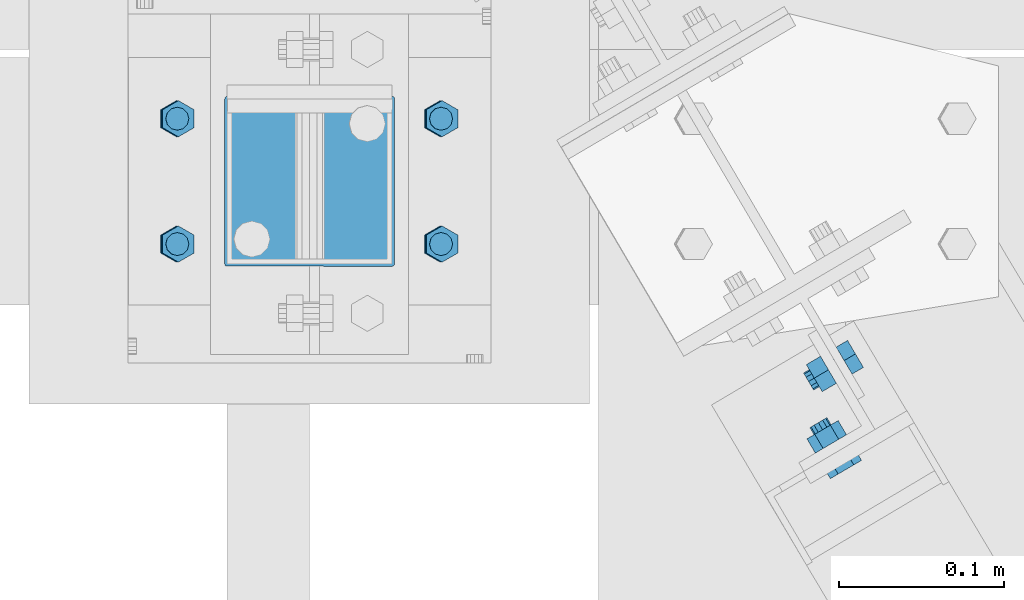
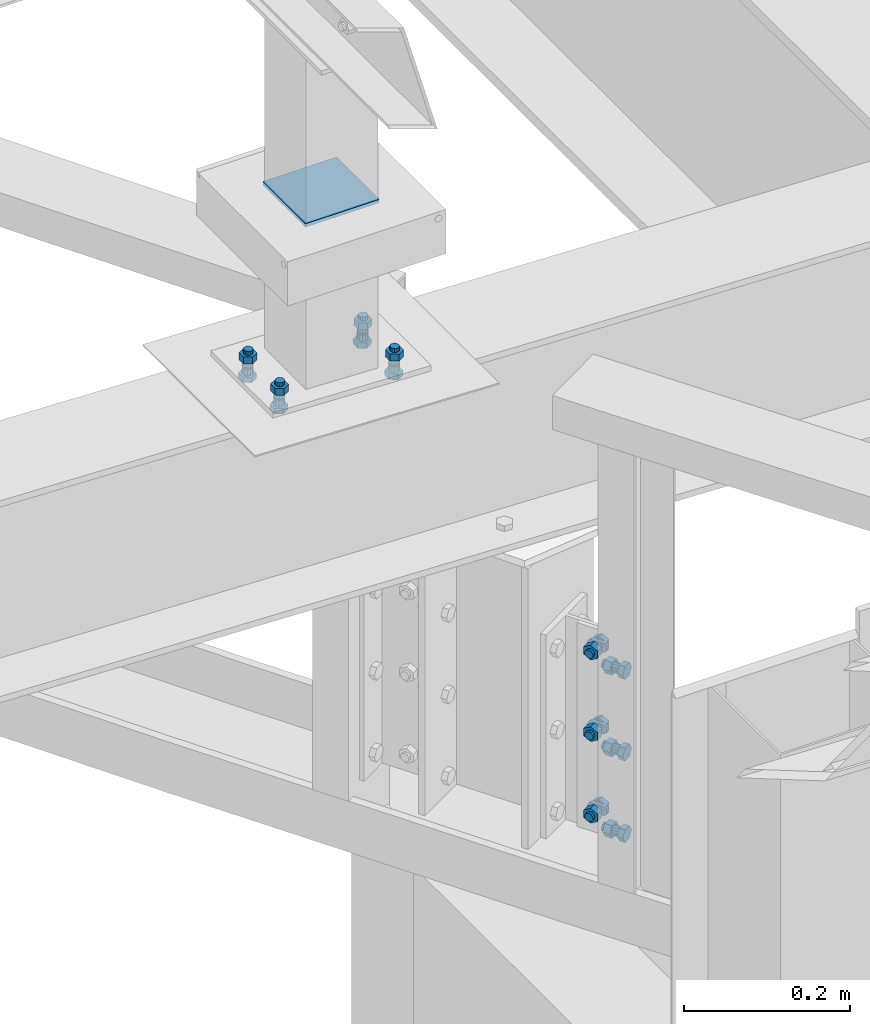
# One storey, part 13 of 3134: 5 mechanical fasteners, 3 elements without a shape of their own.
"""IFC2X3 building model written with IfcOpenShell, lengths in millimetres."""

from ifc_helpers import new_model, si_unit, frame, origin_with_axes, place, context, subcontext, project, spatial, faceted_brep, source, transform, mapped, material, type_object, element, aggregate, save


model = new_model("IFC2X3")

# Units and contexts
model_context = context("Model", 3, precision=1e-05, world=origin_with_axes())
body_context = subcontext(model_context, "Body", "Model", "MODEL_VIEW")
ifc_project = project(units=[si_unit("LENGTHUNIT", "METRE", prefix="MILLI"), si_unit("AREAUNIT", "SQUARE_METRE"), si_unit("VOLUMEUNIT", "CUBIC_METRE"), si_unit("MASSUNIT", "GRAM", prefix="KILO"), si_unit("TIMEUNIT", "SECOND"), si_unit("PLANEANGLEUNIT", "RADIAN"), si_unit("SOLIDANGLEUNIT", "STERADIAN"), si_unit("THERMODYNAMICTEMPERATUREUNIT", "DEGREE_CELSIUS"), si_unit("LUMINOUSINTENSITYUNIT", "LUMEN")], contexts=[model_context])

# Site, building, storey
site_placement = place(None, origin_with_axes())
site = spatial("IfcSite", under=ifc_project, at=site_placement, CompositionType="ELEMENT")
building_placement = place(site_placement, origin_with_axes())
building = spatial("IfcBuilding", under=site, at=building_placement, Name="Undefined", CompositionType="ELEMENT")
storey_placement = place(building_placement, origin_with_axes())
storey = spatial("IfcBuildingStorey", under=building, at=storey_placement, Name="Undefined", CompositionType="ELEMENT", Elevation=0.0)

# Assembly, mechanical fasteners
assembly_1_placement = place(storey_placement, origin_with_axes())
assembly_1 = element("IfcElementAssembly", 1, at=assembly_1_placement, inside=storey, AssemblyPlace="NOTDEFINED", PredefinedType="RIGID_FRAME")
ifc_material_1 = material(Name="8.8")
mechanical_fastener_type = type_object("IfcMechanicalFastenerType", Name="Bolt assembly")
shared_shape_1 = source(origin_with_axes(), body_context, "Body", "Brep", [
    faceted_brep([(10.9696551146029, -12.9998476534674, 0.0), (5.48482755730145, -12.9998476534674, 9.5), (-5.48482755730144, -12.9998476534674, 9.5), (-10.9696551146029, -12.9998476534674, 1.34339530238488e-15), (-5.48482755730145, -12.9998476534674, -9.5), (5.48482755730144, -12.9998476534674, -9.50000000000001), (5.48482755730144, -4.99984765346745, -9.50000000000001), (-5.48482755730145, -4.99984765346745, -9.5), (-10.9696551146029, -4.99984765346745, 1.34339530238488e-15), (-5.48482755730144, -4.99984765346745, 9.5), (5.48482755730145, -4.99984765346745, 9.5), (10.9696551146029, -4.99984765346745, 0.0), (6.0, -4.99984765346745, 0.0), (5.19615242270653, -4.99984765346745, 3.00000000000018), (2.99999999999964, -4.99984765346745, 5.19615242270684), (-6.21801588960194e-13, -4.99984765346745, 6.0), (-3.00000000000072, -4.99984765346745, 5.19615242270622), (-5.19615242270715, -4.99984765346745, 2.9999999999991), (-6.0, -4.99984765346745, -1.24360317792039e-12), (-5.19615242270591, -4.99984765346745, -3.00000000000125), (-2.99999999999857, -4.99984765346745, -5.19615242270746), (1.85874342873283e-12, -4.99984765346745, -6.0), (3.00000000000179, -4.99984765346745, -5.1961524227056), (5.19615242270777, -4.99984765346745, -2.99999999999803), (5.19615242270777, 20.0001523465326, -2.99999999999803), (3.00000000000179, 20.0001523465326, -5.1961524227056), (1.85874342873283e-12, 20.0001523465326, -6.0), (-2.99999999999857, 20.0001523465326, -5.19615242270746), (-5.19615242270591, 20.0001523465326, -3.00000000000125), (-6.0, 20.0001523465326, -1.24360317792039e-12), (-5.19615242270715, 20.0001523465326, 2.9999999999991), (-3.00000000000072, 20.0001523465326, 5.19615242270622), (-6.21801588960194e-13, 20.0001523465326, 6.0), (2.99999999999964, 20.0001523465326, 5.19615242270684), (5.19615242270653, 20.0001523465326, 3.00000000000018), (6.0, 20.0001523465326, 0.0), (10.9696551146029, 4.99208388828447, 0.0), (5.48482755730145, 4.99208388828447, 9.5), (-5.48482755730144, 4.99208388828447, 9.5), (-10.9696551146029, 4.99208388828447, 1.34339530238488e-15), (-5.48482755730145, 4.99208388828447, -9.5), (5.48482755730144, 4.99208388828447, -9.50000000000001), (5.48482755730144, 14.9920838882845, -9.50000000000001), (-5.48482755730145, 14.9920838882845, -9.5), (-10.9696551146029, 14.9920838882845, 1.34339530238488e-15), (-5.48482755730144, 14.9920838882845, 9.5), (5.48482755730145, 14.9920838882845, 9.5), (10.9696551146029, 14.9920838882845, 0.0)], [[[0, 1, 2, 3, 4, 5]], [[6, 7, 8, 9, 10, 11]], [[0, 11, 10, 1]], [[1, 10, 9, 2]], [[2, 9, 8, 3]], [[3, 8, 7, 4]], [[4, 7, 6, 5]], [[5, 6, 11, 0]], [[12, 13, 14, 15, 16, 17, 18, 19, 20, 21, 22, 23]], [[24, 25, 26, 27, 28, 29, 30, 31, 32, 33, 34, 35]], [[12, 35, 34, 13]], [[13, 34, 33, 14]], [[14, 33, 32, 15]], [[15, 32, 31, 16]], [[16, 31, 30, 17]], [[17, 30, 29, 18]], [[18, 29, 28, 19]], [[19, 28, 27, 20]], [[20, 27, 26, 21]], [[21, 26, 25, 22]], [[22, 25, 24, 23]], [[23, 24, 35, 12]], [[36, 37, 38, 39, 40, 41]], [[42, 43, 44, 45, 46, 47]], [[36, 47, 46, 37]], [[37, 46, 45, 38]], [[38, 45, 44, 39]], [[39, 44, 43, 40]], [[40, 43, 42, 41]], [[41, 42, 47, 36]]]),
    faceted_brep([(7.0, -4.89984765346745, 0.0), (6.06217782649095, -4.89984765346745, 3.50000000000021), (3.49999999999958, -4.89984765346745, 6.06217782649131), (-7.25435187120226e-13, -4.89984765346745, 7.0), (-3.50000000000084, -4.89984765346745, 6.06217782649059), (-6.06217782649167, -4.89984765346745, 3.49999999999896), (-7.0, -4.89984765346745, -1.45087037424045e-12), (-6.06217782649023, -4.89984765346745, -3.50000000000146), (-3.49999999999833, -4.89984765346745, -6.06217782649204), (2.1685340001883e-12, -4.89984765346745, -7.0), (3.50000000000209, -4.89984765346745, -6.06217782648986), (6.0621778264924, -4.89984765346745, -3.4999999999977), (6.0621778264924, -0.899847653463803, -3.4999999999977), (3.50000000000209, -0.899847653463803, -6.06217782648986), (2.1685340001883e-12, -0.899847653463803, -7.0), (-3.49999999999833, -0.899847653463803, -6.06217782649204), (-6.06217782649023, -0.899847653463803, -3.50000000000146), (-7.0, -0.899847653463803, -1.45087037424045e-12), (-6.06217782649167, -0.899847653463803, 3.49999999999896), (-3.50000000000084, -0.899847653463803, 6.06217782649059), (-7.25435187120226e-13, -0.899847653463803, 7.0), (3.49999999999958, -0.899847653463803, 6.06217782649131), (6.06217782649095, -0.899847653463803, 3.50000000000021), (7.0, -0.899847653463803, 0.0), (7.0, -1.10791611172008, 0.0), (6.06217782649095, -1.10791611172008, 3.50000000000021), (3.49999999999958, -1.10791611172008, 6.06217782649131), (-7.25435187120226e-13, -1.10791611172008, 7.0), (-3.50000000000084, -1.10791611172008, 6.06217782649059), (-6.06217782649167, -1.10791611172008, 3.49999999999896), (-7.0, -1.10791611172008, -1.45087037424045e-12), (-6.06217782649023, -1.10791611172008, -3.50000000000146), (-3.49999999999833, -1.10791611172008, -6.06217782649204), (2.1685340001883e-12, -1.10791611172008, -7.0), (3.50000000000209, -1.10791611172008, -6.06217782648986), (6.0621778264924, -1.10791611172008, -3.4999999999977), (6.0621778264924, 4.99208388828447, -3.4999999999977), (3.50000000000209, 4.99208388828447, -6.06217782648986), (2.1685340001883e-12, 4.99208388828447, -7.0), (-3.49999999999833, 4.99208388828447, -6.06217782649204), (-6.06217782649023, 4.99208388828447, -3.50000000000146), (-7.0, 4.99208388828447, -1.45087037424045e-12), (-6.06217782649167, 4.99208388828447, 3.49999999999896), (-3.50000000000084, 4.99208388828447, 6.06217782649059), (-7.25435187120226e-13, 4.99208388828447, 7.0), (3.49999999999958, 4.99208388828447, 6.06217782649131), (6.06217782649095, 4.99208388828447, 3.50000000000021), (7.0, 4.99208388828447, 0.0)], [[[0, 1, 2, 3, 4, 5, 6, 7, 8, 9, 10, 11]], [[12, 13, 14, 15, 16, 17, 18, 19, 20, 21, 22, 23]], [[0, 23, 22, 1]], [[1, 22, 21, 2]], [[2, 21, 20, 3]], [[3, 20, 19, 4]], [[4, 19, 18, 5]], [[5, 18, 17, 6]], [[6, 17, 16, 7]], [[7, 16, 15, 8]], [[8, 15, 14, 9]], [[9, 14, 13, 10]], [[10, 13, 12, 11]], [[11, 12, 23, 0]], [[24, 25, 26, 27, 28, 29, 30, 31, 32, 33, 34, 35]], [[36, 37, 38, 39, 40, 41, 42, 43, 44, 45, 46, 47]], [[24, 47, 46, 25]], [[25, 46, 45, 26]], [[26, 45, 44, 27]], [[27, 44, 43, 28]], [[28, 43, 42, 29]], [[29, 42, 41, 30]], [[30, 41, 40, 31]], [[31, 40, 39, 32]], [[32, 39, 38, 33]], [[33, 38, 37, 34]], [[34, 37, 36, 35]], [[35, 36, 47, 24]]]),
])
mechanical_fastener_1_placement = place(assembly_1_placement, frame((8658.56479117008, 10766.5101665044, 3170.0), z_axis=(0.0, 0.0, 1.0), x_axis=(0.862153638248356, 0.506646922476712, 0.0)))
mechanical_fastener_1 = element("IfcMechanicalFastener", 2, at=mechanical_fastener_1_placement, type_object=mechanical_fastener_type, material=ifc_material_1, Name="Bolt assembly", NominalDiameter=12.0, NominalLength=25.0, context=body_context, shape_type="MappedRepresentation", body=[
    mapped(shared_shape_1, transform((0.0, 0.0, -120.0))),
    mapped(shared_shape_1, transform((0.0, 0.0, 0.0))),
    mapped(shared_shape_1, transform((0.0, 0.0, 120.0))),
])
shared_shape_2 = source(origin_with_axes(), body_context, "Body", "Brep", [
    faceted_brep([(10.9696551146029, -10.499999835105, 0.0), (5.48482755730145, -10.499999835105, 9.5), (-5.48482755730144, -10.499999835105, 9.5), (-10.9696551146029, -10.499999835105, 1.34339530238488e-15), (-5.48482755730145, -10.499999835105, -9.5), (5.48482755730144, -10.499999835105, -9.50000000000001), (5.48482755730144, -2.49999983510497, -9.50000000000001), (-5.48482755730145, -2.49999983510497, -9.5), (-10.9696551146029, -2.49999983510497, 1.34339530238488e-15), (-5.48482755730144, -2.49999983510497, 9.5), (5.48482755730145, -2.49999983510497, 9.5), (10.9696551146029, -2.49999983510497, 0.0), (6.0, -2.49999983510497, 0.0), (5.19615242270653, -2.49999983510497, 3.00000000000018), (2.99999999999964, -2.49999983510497, 5.19615242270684), (-6.21801588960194e-13, -2.49999983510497, 6.0), (-3.00000000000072, -2.49999983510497, 5.19615242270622), (-5.19615242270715, -2.49999983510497, 2.9999999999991), (-6.0, -2.49999983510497, -1.24360317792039e-12), (-5.19615242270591, -2.49999983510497, -3.00000000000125), (-2.99999999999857, -2.49999983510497, -5.19615242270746), (1.85874342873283e-12, -2.49999983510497, -6.0), (3.00000000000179, -2.49999983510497, -5.1961524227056), (5.19615242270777, -2.49999983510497, -2.99999999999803), (5.19615242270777, 22.5, -2.99999999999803), (3.00000000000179, 22.5, -5.1961524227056), (1.85874342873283e-12, 22.5, -6.0), (-2.99999999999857, 22.5, -5.19615242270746), (-5.19615242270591, 22.5, -3.00000000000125), (-6.0, 22.5, -1.24360317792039e-12), (-5.19615242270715, 22.5, 2.9999999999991), (-3.00000000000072, 22.5, 5.19615242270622), (-6.21801588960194e-13, 22.5, 6.0), (2.99999999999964, 22.5, 5.19615242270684), (5.19615242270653, 22.5, 3.00000000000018), (6.0, 22.5, 0.0), (10.9696551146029, 8.50160430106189, 0.0), (5.48482755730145, 8.50160430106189, 9.5), (-5.48482755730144, 8.50160430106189, 9.5), (-10.9696551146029, 8.50160430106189, 1.34339530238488e-15), (-5.48482755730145, 8.50160430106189, -9.5), (5.48482755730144, 8.50160430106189, -9.50000000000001), (5.48482755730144, 18.5016043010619, -9.50000000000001), (-5.48482755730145, 18.5016043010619, -9.5), (-10.9696551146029, 18.5016043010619, 1.34339530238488e-15), (-5.48482755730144, 18.5016043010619, 9.5), (5.48482755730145, 18.5016043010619, 9.5), (10.9696551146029, 18.5016043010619, 0.0)], [[[0, 1, 2, 3, 4, 5]], [[6, 7, 8, 9, 10, 11]], [[0, 11, 10, 1]], [[1, 10, 9, 2]], [[2, 9, 8, 3]], [[3, 8, 7, 4]], [[4, 7, 6, 5]], [[5, 6, 11, 0]], [[12, 13, 14, 15, 16, 17, 18, 19, 20, 21, 22, 23]], [[24, 25, 26, 27, 28, 29, 30, 31, 32, 33, 34, 35]], [[12, 35, 34, 13]], [[13, 34, 33, 14]], [[14, 33, 32, 15]], [[15, 32, 31, 16]], [[16, 31, 30, 17]], [[17, 30, 29, 18]], [[18, 29, 28, 19]], [[19, 28, 27, 20]], [[20, 27, 26, 21]], [[21, 26, 25, 22]], [[22, 25, 24, 23]], [[23, 24, 35, 12]], [[36, 37, 38, 39, 40, 41]], [[42, 43, 44, 45, 46, 47]], [[36, 47, 46, 37]], [[37, 46, 45, 38]], [[38, 45, 44, 39]], [[39, 44, 43, 40]], [[40, 43, 42, 41]], [[41, 42, 47, 36]]]),
    faceted_brep([(7.0, -2.39999983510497, 7.0), (6.46715672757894, -2.39999983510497, 9.6787840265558), (4.94974746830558, -2.39999983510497, 11.9497474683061), (-7.25435187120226e-13, -2.39999983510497, 14.0), (-3.50000000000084, -2.39999983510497, 13.0621778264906), (-6.06217782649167, -2.39999983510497, 10.499999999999), (-7.0, -2.39999983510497, 6.99999999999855), (-7.0, -2.39999983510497, -7.00000000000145), (-6.06217782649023, -2.39999983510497, -10.5000000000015), (-3.49999999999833, -2.39999983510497, -13.062177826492), (2.1685340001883e-12, -2.39999983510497, -14.0), (3.50000000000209, -2.39999983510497, -13.0621778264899), (6.0621778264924, -2.39999983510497, -10.4999999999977), (7.0, -2.39999983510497, -6.9999999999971), (7.0, 2.60000016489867, -6.9999999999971), (6.0621778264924, 2.60000016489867, -10.4999999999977), (3.50000000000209, 2.60000016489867, -13.0621778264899), (2.1685340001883e-12, 2.60000016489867, -14.0), (-3.49999999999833, 2.60000016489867, -13.062177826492), (-6.06217782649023, 2.60000016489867, -10.5000000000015), (-7.0, 2.60000016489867, -7.00000000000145), (-7.0, 2.60000016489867, 6.99999999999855), (-6.06217782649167, 2.60000016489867, 10.499999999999), (-3.50000000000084, 2.60000016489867, 13.0621778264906), (-7.25435187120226e-13, 2.60000016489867, 14.0), (2.67878402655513, 2.60000016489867, 13.4671567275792), (4.94974746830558, 2.60000016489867, 11.9497474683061), (6.46715672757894, 2.60000016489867, 9.6787840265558), (7.0, 2.60000016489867, 7.0), (2.67878402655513, -2.39999983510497, 13.4671567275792), (7.0, 2.40160430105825, 0.0), (6.06217782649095, 2.40160430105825, 3.50000000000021), (3.49999999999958, 2.40160430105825, 6.06217782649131), (-7.25435187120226e-13, 2.40160430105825, 7.0), (-3.50000000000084, 2.40160430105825, 6.06217782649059), (-6.06217782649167, 2.40160430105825, 3.49999999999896), (-7.0, 2.40160430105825, -1.45087037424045e-12), (-6.06217782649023, 2.40160430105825, -3.50000000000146), (-3.49999999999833, 2.40160430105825, -6.06217782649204), (2.1685340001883e-12, 2.40160430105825, -7.0), (3.50000000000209, 2.40160430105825, -6.06217782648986), (6.0621778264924, 2.40160430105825, -3.4999999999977), (6.0621778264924, 8.50160430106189, -3.4999999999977), (3.50000000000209, 8.50160430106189, -6.06217782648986), (2.1685340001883e-12, 8.50160430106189, -7.0), (-3.49999999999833, 8.50160430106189, -6.06217782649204), (-6.06217782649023, 8.50160430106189, -3.50000000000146), (-7.0, 8.50160430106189, -1.45087037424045e-12), (-6.06217782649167, 8.50160430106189, 3.49999999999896), (-3.50000000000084, 8.50160430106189, 6.06217782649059), (-7.25435187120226e-13, 8.50160430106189, 7.0), (3.49999999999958, 8.50160430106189, 6.06217782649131), (6.06217782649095, 8.50160430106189, 3.50000000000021), (7.0, 8.50160430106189, 0.0)], [[[0, 1, 2, 3, 4, 5, 6, 7, 8, 9, 10, 11, 12, 13]], [[14, 15, 16, 17, 18, 19, 20, 21, 22, 23, 24, 25, 26, 27, 28]], [[0, 28, 27, 1]], [[1, 27, 26, 2]], [[2, 26, 25, 29]], [[29, 25, 24, 3]], [[3, 24, 23, 4]], [[4, 23, 22, 5]], [[5, 22, 21, 6]], [[6, 21, 20, 7]], [[7, 20, 19, 8]], [[8, 19, 18, 9]], [[9, 18, 17, 10]], [[10, 17, 16, 11]], [[11, 16, 15, 12]], [[12, 15, 14, 13]], [[13, 14, 28, 0]], [[30, 31, 32, 33, 34, 35, 36, 37, 38, 39, 40, 41]], [[42, 43, 44, 45, 46, 47, 48, 49, 50, 51, 52, 53]], [[30, 53, 52, 31]], [[31, 52, 51, 32]], [[32, 51, 50, 33]], [[33, 50, 49, 34]], [[34, 49, 48, 35]], [[35, 48, 47, 36]], [[36, 47, 46, 37]], [[37, 46, 45, 38]], [[38, 45, 44, 39]], [[39, 44, 43, 40]], [[40, 43, 42, 41]], [[41, 42, 53, 30]]]),
])
mechanical_fastener_2_placement = place(assembly_1_placement, frame((8661.88561644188, 10820.0720053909, 3290.00065963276), z_axis=(-0.50664692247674, 0.862153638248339, 0.0), x_axis=(0.0, 0.0, -1.0)))
mechanical_fastener_2 = element("IfcMechanicalFastener", 3, at=mechanical_fastener_2_placement, type_object=mechanical_fastener_type, material=ifc_material_1, Name="Bolt assembly", NominalDiameter=12.0, NominalLength=25.0, context=body_context, shape_type="MappedRepresentation", body=[
    mapped(shared_shape_2, transform((0.0, 0.0, 0.0))),
    mapped(shared_shape_2, transform((120.0, 0.0, 0.0))),
    mapped(shared_shape_2, transform((240.0, 0.0, 0.0))),
])
aggregate(assembly_1, [mechanical_fastener_1, mechanical_fastener_2])

# Assembly, mechanical fastener
assembly_2_placement = place(storey_placement, origin_with_axes())
assembly_2 = element("IfcElementAssembly", 4, at=assembly_2_placement, inside=storey, AssemblyPlace="NOTDEFINED", PredefinedType="RIGID_FRAME")
shared_shape_3 = source(origin_with_axes(), body_context, "Body", "Brep", [
    faceted_brep([(10.9696551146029, -4.18346828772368, 0.0), (5.48482755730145, -4.18346828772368, 9.5), (-5.48482755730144, -4.18346828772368, 9.5), (-10.9696551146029, -4.18346828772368, 1.34339530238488e-15), (-5.48482755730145, -4.18346828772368, -9.5), (5.48482755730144, -4.18346828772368, -9.50000000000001), (5.48482755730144, 3.81653171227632, -9.50000000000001), (-5.48482755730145, 3.81653171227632, -9.5), (-10.9696551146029, 3.81653171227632, 1.34339530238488e-15), (-5.48482755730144, 3.81653171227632, 9.5), (5.48482755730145, 3.81653171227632, 9.5), (10.9696551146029, 3.81653171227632, 0.0), (6.0, 3.81653171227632, 0.0), (5.19615242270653, 3.81653171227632, 3.00000000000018), (2.99999999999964, 3.81653171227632, 5.19615242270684), (-6.21801588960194e-13, 3.81653171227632, 6.0), (-3.00000000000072, 3.81653171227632, 5.19615242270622), (-5.19615242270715, 3.81653171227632, 2.9999999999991), (-6.0, 3.81653171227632, -1.24360317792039e-12), (-5.19615242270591, 3.81653171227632, -3.00000000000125), (-2.99999999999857, 3.81653171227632, -5.19615242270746), (1.85874342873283e-12, 3.81653171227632, -6.0), (3.00000000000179, 3.81653171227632, -5.1961524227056), (5.19615242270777, 3.81653171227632, -2.99999999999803), (5.19615242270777, 38.8165317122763, -2.99999999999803), (3.00000000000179, 38.8165317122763, -5.1961524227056), (1.85874342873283e-12, 38.8165317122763, -6.0), (-2.99999999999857, 38.8165317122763, -5.19615242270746), (-5.19615242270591, 38.8165317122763, -3.00000000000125), (-6.0, 38.8165317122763, -1.24360317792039e-12), (-5.19615242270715, 38.8165317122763, 2.9999999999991), (-3.00000000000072, 38.8165317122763, 5.19615242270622), (-6.21801588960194e-13, 38.8165317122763, 6.0), (2.99999999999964, 38.8165317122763, 5.19615242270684), (5.19615242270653, 38.8165317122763, 3.00000000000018), (6.0, 38.8165317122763, 0.0), (10.9696551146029, 23.0139082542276, 0.0), (5.48482755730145, 23.0139082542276, 9.5), (-5.48482755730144, 23.0139082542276, 9.5), (-10.9696551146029, 23.0139082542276, 1.34339530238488e-15), (-5.48482755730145, 23.0139082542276, -9.5), (5.48482755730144, 23.0139082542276, -9.50000000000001), (5.48482755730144, 33.0139082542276, -9.50000000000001), (-5.48482755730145, 33.0139082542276, -9.5), (-10.9696551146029, 33.0139082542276, 1.34339530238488e-15), (-5.48482755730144, 33.0139082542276, 9.5), (5.48482755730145, 33.0139082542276, 9.5), (10.9696551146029, 33.0139082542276, 0.0)], [[[0, 1, 2, 3, 4, 5]], [[6, 7, 8, 9, 10, 11]], [[0, 11, 10, 1]], [[1, 10, 9, 2]], [[2, 9, 8, 3]], [[3, 8, 7, 4]], [[4, 7, 6, 5]], [[5, 6, 11, 0]], [[12, 13, 14, 15, 16, 17, 18, 19, 20, 21, 22, 23]], [[24, 25, 26, 27, 28, 29, 30, 31, 32, 33, 34, 35]], [[12, 35, 34, 13]], [[13, 34, 33, 14]], [[14, 33, 32, 15]], [[15, 32, 31, 16]], [[16, 31, 30, 17]], [[17, 30, 29, 18]], [[18, 29, 28, 19]], [[19, 28, 27, 20]], [[20, 27, 26, 21]], [[21, 26, 25, 22]], [[22, 25, 24, 23]], [[23, 24, 35, 12]], [[36, 37, 38, 39, 40, 41]], [[42, 43, 44, 45, 46, 47]], [[36, 47, 46, 37]], [[37, 46, 45, 38]], [[38, 45, 44, 39]], [[39, 44, 43, 40]], [[40, 43, 42, 41]], [[41, 42, 47, 36]]]),
    faceted_brep([(7.0, 3.91653171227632, 0.0), (6.06217782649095, 3.91653171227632, 3.50000000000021), (3.49999999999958, 3.91653171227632, 6.06217782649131), (-7.25435187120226e-13, 3.91653171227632, 7.0), (-3.50000000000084, 3.91653171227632, 6.06217782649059), (-6.06217782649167, 3.91653171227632, 3.49999999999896), (-7.0, 3.91653171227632, -1.45087037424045e-12), (-6.06217782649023, 3.91653171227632, -3.50000000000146), (-3.49999999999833, 3.91653171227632, -6.06217782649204), (2.1685340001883e-12, 3.91653171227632, -7.0), (3.50000000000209, 3.91653171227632, -6.06217782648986), (6.0621778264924, 3.91653171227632, -3.4999999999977), (6.0621778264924, 13.1165315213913, -3.4999999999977), (3.50000000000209, 13.1165315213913, -6.06217782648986), (2.1685340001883e-12, 13.1165315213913, -7.0), (-3.49999999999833, 13.1165315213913, -6.06217782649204), (-6.06217782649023, 13.1165315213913, -3.50000000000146), (-7.0, 13.1165315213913, -1.45087037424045e-12), (-6.06217782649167, 13.1165315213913, 3.49999999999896), (-3.50000000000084, 13.1165315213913, 6.06217782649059), (-7.25435187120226e-13, 13.1165315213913, 7.0), (3.49999999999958, 13.1165315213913, 6.06217782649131), (6.06217782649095, 13.1165315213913, 3.50000000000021), (7.0, 13.1165315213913, 0.0), (7.0, 14.9139082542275, 0.0), (6.06217782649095, 14.9139082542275, 3.50000000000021), (3.49999999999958, 14.9139082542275, 6.06217782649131), (-7.25435187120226e-13, 14.9139082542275, 7.0), (-3.50000000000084, 14.9139082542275, 6.06217782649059), (-6.06217782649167, 14.9139082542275, 3.49999999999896), (-7.0, 14.9139082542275, -1.45087037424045e-12), (-6.06217782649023, 14.9139082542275, -3.50000000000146), (-3.49999999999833, 14.9139082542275, -6.06217782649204), (2.1685340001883e-12, 14.9139082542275, -7.0), (3.50000000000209, 14.9139082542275, -6.06217782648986), (6.0621778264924, 14.9139082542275, -3.4999999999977), (6.0621778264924, 23.0139082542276, -3.4999999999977), (3.50000000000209, 23.0139082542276, -6.06217782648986), (2.1685340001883e-12, 23.0139082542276, -7.0), (-3.49999999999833, 23.0139082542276, -6.06217782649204), (-6.06217782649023, 23.0139082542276, -3.50000000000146), (-7.0, 23.0139082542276, -1.45087037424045e-12), (-6.06217782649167, 23.0139082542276, 3.49999999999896), (-3.50000000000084, 23.0139082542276, 6.06217782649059), (-7.25435187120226e-13, 23.0139082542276, 7.0), (3.49999999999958, 23.0139082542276, 6.06217782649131), (6.06217782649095, 23.0139082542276, 3.50000000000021), (7.0, 23.0139082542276, 0.0)], [[[0, 1, 2, 3, 4, 5, 6, 7, 8, 9, 10, 11]], [[12, 13, 14, 15, 16, 17, 18, 19, 20, 21, 22, 23]], [[0, 23, 22, 1]], [[1, 22, 21, 2]], [[2, 21, 20, 3]], [[3, 20, 19, 4]], [[4, 19, 18, 5]], [[5, 18, 17, 6]], [[6, 17, 16, 7]], [[7, 16, 15, 8]], [[8, 15, 14, 9]], [[9, 14, 13, 10]], [[10, 13, 12, 11]], [[11, 12, 23, 0]], [[24, 25, 26, 27, 28, 29, 30, 31, 32, 33, 34, 35]], [[36, 37, 38, 39, 40, 41, 42, 43, 44, 45, 46, 47]], [[24, 47, 46, 25]], [[25, 46, 45, 26]], [[26, 45, 44, 27]], [[27, 44, 43, 28]], [[28, 43, 42, 29]], [[29, 42, 41, 30]], [[30, 41, 40, 31]], [[31, 40, 39, 32]], [[32, 39, 38, 33]], [[33, 38, 37, 34]], [[34, 37, 36, 35]], [[35, 36, 47, 24]]]),
])
mechanical_fastener_3_placement = place(assembly_2_placement, frame((8339.19318655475, 10967.9999999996, 3735.10000668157), z_axis=(-0.999387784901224, 0.0, 0.0349865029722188), x_axis=(0.0, -1.0, 0.0)))
mechanical_fastener_3 = element("IfcMechanicalFastener", 5, at=mechanical_fastener_3_placement, type_object=mechanical_fastener_type, material=ifc_material_1, Name="Bolt assembly", NominalDiameter=12.0, NominalLength=35.0, context=body_context, shape_type="MappedRepresentation", body=[
    mapped(shared_shape_3, transform((0.0, -5.32963895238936e-10, -79.9999999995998))),
    mapped(shared_shape_3, transform((76.0, -5.32963895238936e-10, -79.9999999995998))),
    mapped(shared_shape_3, transform((0.0, 5.3114490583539e-10, 79.9999999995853))),
    mapped(shared_shape_3, transform((76.0, 5.3114490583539e-10, 79.9999999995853))),
])

assembly_3_placement = place(storey_placement, origin_with_axes())
assembly_3 = element("IfcElementAssembly", 6, at=assembly_3_placement, inside=storey, AssemblyPlace="NOTDEFINED", PredefinedType="RIGID_FRAME")
shared_shape_4 = source(origin_with_axes(), body_context, "Body", "Brep", [
    faceted_brep([(7.0, 13.0000253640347, 0.0), (6.06217782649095, 13.0000253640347, 3.50000000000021), (3.49999999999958, 13.0000253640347, 6.06217782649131), (-7.25435187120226e-13, 13.0000253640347, 7.0), (-3.50000000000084, 13.0000253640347, 6.06217782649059), (-6.06217782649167, 13.0000253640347, 3.49999999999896), (-7.0, 13.0000253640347, -1.45087037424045e-12), (-6.06217782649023, 13.0000253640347, -3.50000000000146), (-3.49999999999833, 13.0000253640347, -6.06217782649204), (2.1685340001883e-12, 13.0000253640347, -7.0), (3.50000000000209, 13.0000253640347, -6.06217782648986), (6.0621778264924, 13.0000253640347, -3.4999999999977), (6.0621778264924, 15.0999999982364, -3.4999999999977), (3.50000000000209, 15.0999999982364, -6.06217782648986), (2.1685340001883e-12, 15.0999999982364, -7.0), (-3.49999999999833, 15.0999999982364, -6.06217782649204), (-6.06217782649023, 15.0999999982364, -3.50000000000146), (-7.0, 15.0999999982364, -1.45087037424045e-12), (-6.06217782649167, 15.0999999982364, 3.49999999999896), (-3.50000000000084, 15.0999999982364, 6.06217782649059), (-7.25435187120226e-13, 15.0999999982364, 7.0), (3.49999999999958, 15.0999999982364, 6.06217782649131), (6.06217782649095, 15.0999999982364, 3.50000000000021), (7.0, 15.0999999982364, 0.0)], [[[0, 1, 2, 3, 4, 5, 6, 7, 8, 9, 10, 11]], [[12, 13, 14, 15, 16, 17, 18, 19, 20, 21, 22, 23]], [[0, 23, 22, 1]], [[1, 22, 21, 2]], [[2, 21, 20, 3]], [[3, 20, 19, 4]], [[4, 19, 18, 5]], [[5, 18, 17, 6]], [[6, 17, 16, 7]], [[7, 16, 15, 8]], [[8, 15, 14, 9]], [[9, 14, 13, 10]], [[10, 13, 12, 11]], [[11, 12, 23, 0]]]),
])
mechanical_fastener_4_placement = place(assembly_3_placement, frame((8339.19318655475, 10967.9999999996, 3735.10000668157), z_axis=(-0.999387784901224, 0.0, 0.0349865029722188), x_axis=(0.0, -1.0, 0.0)))
mechanical_fastener_4 = element("IfcMechanicalFastener", 7, at=mechanical_fastener_4_placement, type_object=mechanical_fastener_type, material=ifc_material_1, Name="Bolt assembly", NominalDiameter=12.0, NominalLength=2.0, context=body_context, shape_type="MappedRepresentation", body=[
    mapped(shared_shape_4, transform((0.0, -5.32963895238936e-10, -79.9999999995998))),
    mapped(shared_shape_4, transform((76.0, -5.32963895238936e-10, -79.9999999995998))),
    mapped(shared_shape_4, transform((0.0, 5.3114490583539e-10, 79.9999999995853))),
    mapped(shared_shape_4, transform((76.0, 5.3114490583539e-10, 79.9999999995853))),
])
aggregate(assembly_3, [mechanical_fastener_4])

# Mechanical fastener
ifc_material_2 = material(Name="6.8")
shared_shape_5 = source(origin_with_axes(), body_context, "Body", "Brep", [
    faceted_brep([(51.5, 1.36424205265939e-12, 50.0), (51.3858192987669, 1.36424205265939e-12, 50.5740251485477), (51.0606601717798, 1.36424205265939e-12, 51.0606601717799), (50.5740251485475, 1.36424205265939e-12, 51.385819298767), (-50.0000000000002, 1.36424205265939e-12, 51.5), (-50.7500000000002, 1.36424205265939e-12, 51.2990381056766), (-51.2990381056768, 1.36424205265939e-12, 50.7499999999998), (-51.5, 1.36424205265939e-12, 49.9999999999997), (-51.5, 1.36424205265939e-12, -50.0000000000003), (-51.2990381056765, 1.36424205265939e-12, -50.7500000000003), (-50.7499999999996, 1.36424205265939e-12, -51.2990381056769), (-49.9999999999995, 1.36424205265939e-12, -51.5), (50.0000000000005, 1.36424205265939e-12, -51.5), (50.7500000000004, 1.36424205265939e-12, -51.2990381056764), (51.2990381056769, 1.36424205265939e-12, -50.7499999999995), (51.5, 1.36424205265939e-12, -49.9999999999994), (51.5, 5.10000000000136, -49.9999999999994), (51.2990381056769, 5.10000000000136, -50.7499999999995), (50.7500000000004, 5.10000000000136, -51.2990381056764), (50.0000000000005, 5.10000000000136, -51.5), (-49.9999999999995, 5.10000000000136, -51.5), (-50.7499999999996, 5.10000000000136, -51.2990381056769), (-51.2990381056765, 5.10000000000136, -50.7500000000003), (-51.5, 5.10000000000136, -50.0000000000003), (-51.5, 5.10000000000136, 49.9999999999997), (-51.2990381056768, 5.10000000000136, 50.7499999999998), (-50.7500000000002, 5.10000000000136, 51.2990381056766), (-50.0000000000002, 5.10000000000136, 51.5), (50.5740251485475, 5.10000000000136, 51.385819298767), (51.0606601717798, 5.10000000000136, 51.0606601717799), (51.3858192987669, 5.10000000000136, 50.5740251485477), (51.5, 5.10000000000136, 50.0)], [[[0, 1, 2, 3, 4, 5, 6, 7, 8, 9, 10, 11, 12, 13, 14, 15]], [[16, 17, 18, 19, 20, 21, 22, 23, 24, 25, 26, 27, 28, 29, 30, 31]], [[0, 31, 30, 1]], [[1, 30, 29, 2]], [[2, 29, 28, 3]], [[3, 28, 27, 4]], [[4, 27, 26, 5]], [[5, 26, 25, 6]], [[6, 25, 24, 7]], [[7, 24, 23, 8]], [[8, 23, 22, 9]], [[9, 22, 21, 10]], [[10, 21, 20, 11]], [[11, 20, 19, 12]], [[12, 19, 18, 13]], [[13, 18, 17, 14]], [[14, 17, 16, 15]], [[15, 16, 31, 0]]]),
])
mechanical_fastener_5_placement = place(assembly_2_placement, frame((8340.0, 10930.0, 4004.89), z_axis=(0.0, -1.0, 0.0), x_axis=(-1.0, 0.0, 0.0)))
mechanical_fastener_5 = element("IfcMechanicalFastener", 8, at=mechanical_fastener_5_placement, type_object=mechanical_fastener_type, material=ifc_material_2, Name="Bolt assembly", NominalDiameter=10.0, NominalLength=5.0, context=body_context, shape_type="MappedRepresentation", body=[
    mapped(shared_shape_5, transform((0.0, 0.0, 0.0))),
])

aggregate(assembly_2, [mechanical_fastener_5, mechanical_fastener_3])

save(model, "model.ifc")
